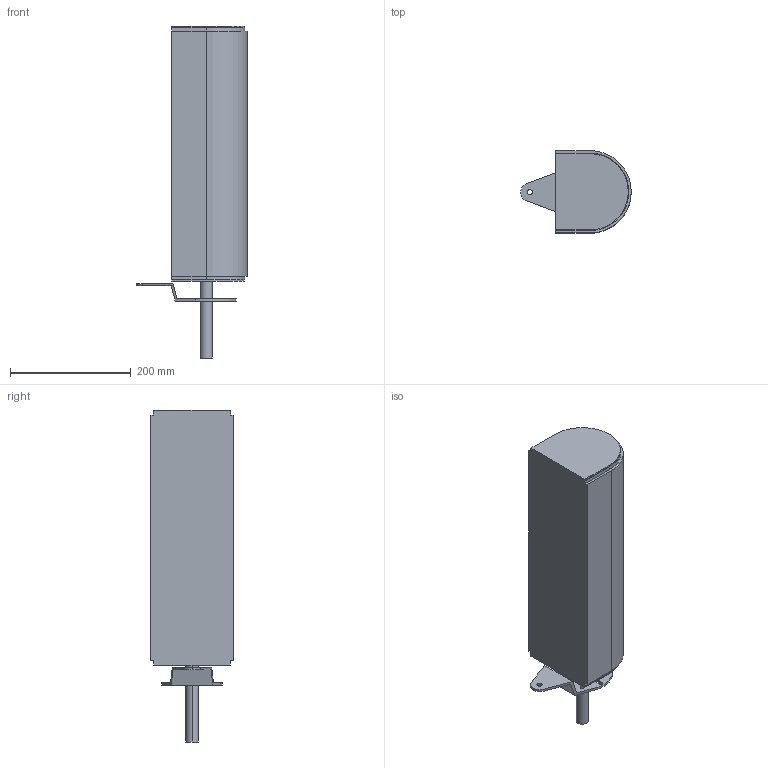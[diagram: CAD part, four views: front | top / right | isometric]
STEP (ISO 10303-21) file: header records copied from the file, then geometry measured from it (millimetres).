
FILE_DESCRIPTION (( 'STEP AP214' ), '1' );
FILE_NAME ('FS-MTC2-150-INOX Aandrijving & omloop.420 aandr links ra.STEP', '2017-02-08T12:38:38', ( '' ), ( '' ), 'SwSTEP 2.0', 'SolidWorks 2016', '' );
FILE_SCHEMA (( 'AUTOMOTIVE_DESIGN' ));
Length unit declared in the file: millimetre
Products named in the file (1): FS-MTC2-150-INOX Aandrijving & omloop.420 aandr links ra
Bounding box: 183.25 x 136.5 x 550.5 mm (x, y, z)
Volume: 6427800.9 mm3; surface area: 257461.7 mm2
Topology: 2 solids, 2 shells, 78 faces, 219 edges, 146 vertices
Faces by surface type: plane 42, cylinder 36
Entity records: 2618 total; most frequent: DIRECTION 449, CARTESIAN_POINT 444, ORIENTED_EDGE 438, EDGE_CURVE 219, AXIS2_PLACEMENT_3D 151, VECTOR 147, LINE 147, VERTEX_POINT 146
